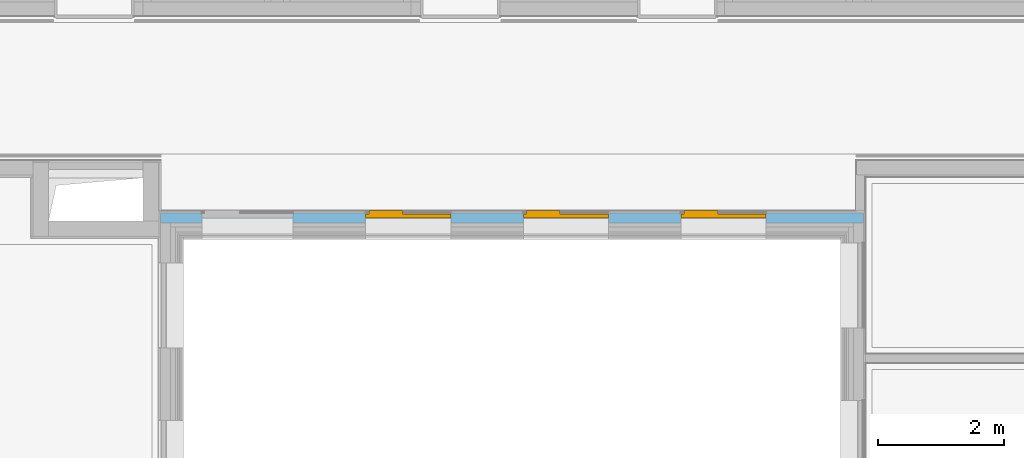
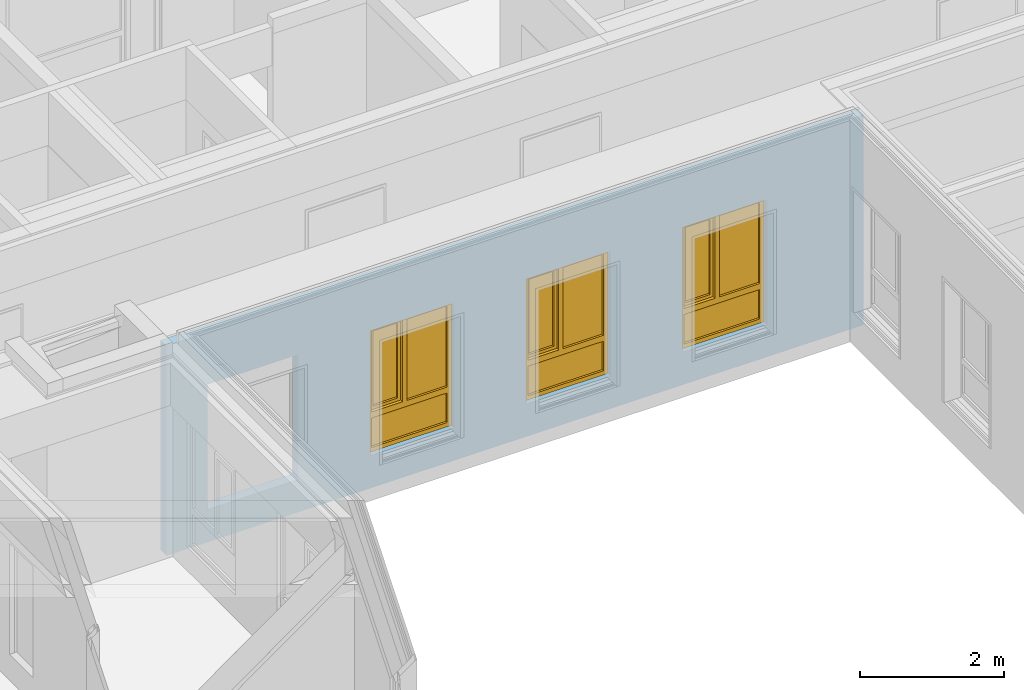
# One storey, part 129 of 222: 3 windows, 4 openings, plus 1 element that does not belong to this part.
"""IFC4 building model written with IfcOpenShell, lengths in metres."""

from ifc_helpers import new_model, entity, si_unit, converted_unit, derived_unit, frame, origin, origin_with_axes, place, context, subcontext, project, spatial, polyline, outline, extrude, closed_shell, open_shell, surface_model, source, transform, mapped, material, element, fill, save


model = new_model("IFC4")

# Units and contexts
model_context = context("Model", 3, precision=1e-05, world=origin())
body_context = subcontext(model_context, "Body", "Model", "MODEL_VIEW")
ifc_project = project(units=[si_unit("LENGTHUNIT", "METRE"), si_unit("AREAUNIT", "SQUARE_METRE"), si_unit("VOLUMEUNIT", "CUBIC_METRE"), si_unit("MASSUNIT", "GRAM", prefix="KILO"), converted_unit("PLANEANGLEUNIT", "DEGREE", entity("IfcPlaneAngleMeasure", 0.0174532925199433), si_unit("PLANEANGLEUNIT", "RADIAN"), dimensions=[0, 0, 0, 0, 0, 0, 0]), derived_unit("THERMALTRANSMITTANCEUNIT", [(si_unit("POWERUNIT", "WATT"), 1), (si_unit("THERMODYNAMICTEMPERATUREUNIT", "KELVIN"), -1), (si_unit("LENGTHUNIT", "METRE"), -2)]), derived_unit("VOLUMETRICFLOWRATEUNIT", [(si_unit("LENGTHUNIT", "METRE"), 3), (converted_unit("TIMEUNIT", "hour", entity("IfcTimeMeasure", 3600.0), si_unit("TIMEUNIT", "SECOND"), dimensions=[0, 0, 1, 0, 0, 0, 0]), -1), (si_unit("LENGTHUNIT", "METRE"), -1)])], contexts=[model_context])

# Site, building, storey
site_placement = place(None, origin())
site = spatial("IfcSite", under=ifc_project, at=site_placement, Name="Psychiatrie Neubau Wunstorf", CompositionType="ELEMENT")
building_placement = place(site_placement, origin())
building = spatial("IfcBuilding", under=site, at=building_placement, Name="Neubau H2 Stationsgebäude", CompositionType="ELEMENT")
storey_placement = place(building_placement, frame((0.0, 0.0, 3.6)))
storey = spatial("IfcBuildingStorey", under=building, at=storey_placement, Name="H2 Ebene +1", CompositionType="ELEMENT", Elevation=3.6)

# Wall, openings, windows
ifc_material = material(Name="WA-DL")
wall_placement = place(storey_placement, frame((90.325, 22.000006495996, 0.0), z_axis=(0.0, 0.0, 1.0), x_axis=(-0.999999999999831, -5.80725547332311e-07, 0.0)))
wall = element("IfcWall", 1, at=wall_placement, inside=storey, material=ifc_material, context=body_context, shape_type="SweptSolid", body=[
    extrude(outline(polyline([(-11.150000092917, -0.159998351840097), (-9.29151304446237e-08, -0.159998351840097), (0.0, 0.0), (-11.1499999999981, 6.47508983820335e-06), (-11.150000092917, -0.159998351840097)])), frame((11.150000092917, 0.159998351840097, 0.0), z_axis=(0.0, 0.0, 1.0), x_axis=(1.0, 0.0, 0.0)), (0.0, 0.0, 1.0), 3.55),
])
opening_1_placement = place(wall_placement, frame((7.89530009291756, 0.160000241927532, 0.55), z_axis=(-5.80725546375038e-07, -0.999999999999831, 0.0), x_axis=(0.0, 0.0, 1.0)))
opening_1 = element("IfcOpeningElement", 2, at=opening_1_placement, cuts=wall, Name="Fensteröffnung", ObjectType="Opening", context=body_context, shape_type="SweptSolid", body=[
    extrude(outline(polyline([(2.115, 1.35), (2.115, 0.0), (0.0, 0.0), (0.0, 1.35), (2.115, 1.35)])), origin_with_axes(), (0.0, 0.0, 1.0), 0.160000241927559),
])
opening_2_placement = place(wall_placement, frame((5.39530009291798, 0.160001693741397, 0.55), z_axis=(-5.80725546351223e-07, -0.999999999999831, 0.0), x_axis=(0.0, 0.0, 1.0)))
opening_2 = element("IfcOpeningElement", 3, at=opening_2_placement, cuts=wall, Name="Fensteröffnung", ObjectType="Opening", context=body_context, shape_type="SweptSolid", body=[
    extrude(outline(polyline([(2.115, 1.3500003), (2.115, 0.0), (0.0, 0.0), (0.0, 1.3500003), (2.115, 1.3500003)])), origin_with_axes(), (0.0, 0.0, 1.0), 0.160001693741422),
])
opening_3_placement = place(wall_placement, frame((2.89529979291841, 0.160003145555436, 0.55), z_axis=(-5.80725549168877e-07, -0.999999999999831, 0.0), x_axis=(0.0, 0.0, 1.0)))
opening_3 = element("IfcOpeningElement", 4, at=opening_3_placement, cuts=wall, Name="Fensteröffnung", ObjectType="Opening", context=body_context, shape_type="SweptSolid", body=[
    extrude(outline(polyline([(2.115, 1.3500003), (2.115, 0.0), (0.0, 0.0), (0.0, 1.3500003), (2.115, 1.3500003)])), origin_with_axes(), (0.0, 0.0, 1.0), 0.160003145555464),
])
opening_4_placement = place(wall_placement, frame((10.4953000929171, 0.159998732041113, 0.55), z_axis=(-5.80725541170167e-07, -0.999999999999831, 0.0), x_axis=(0.0, 0.0, 1.0)))
element("IfcOpeningElement", 5, at=opening_4_placement, cuts=wall, Name="Fensteröffnung", ObjectType="Opening", context=body_context, shape_type="SweptSolid", body=[
    extrude(outline(polyline([(2.115, 1.45), (2.115, 0.0), (0.0, 0.0), (0.0, 1.45), (2.115, 1.45)])), origin_with_axes(), (0.0, 0.0, 1.0), 0.159998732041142),
])
shared_shape_1 = source(origin_with_axes(), body_context, "Body", "SurfaceModel", [
    surface_model("IfcShellBasedSurfaceModel", [(1.35000023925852, -8.85086432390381e-07, 2.115), (1.35000023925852, -8.85086432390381e-07, 0.0), (1.28000023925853, -9.25737222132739e-07, 0.0), (1.28000023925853, -9.25737222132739e-07, 2.115), (1.35000019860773, 0.0699991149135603, 0.0), (1.35000019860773, 0.0699991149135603, 2.115), (1.28000019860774, 0.0699990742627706, 2.115), (1.28000019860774, 0.0699990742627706, 0.0)], [closed_shell([[[0, 1, 2, 3]], [[4, 5, 6, 7]], [[1, 0, 5, 4]], [[2, 1, 4, 7]], [[3, 2, 7, 6]], [[0, 3, 6, 5]]], orient=[[False], [False], [False], [False], [False], [False]])]),
    surface_model("IfcShellBasedSurfaceModel", [(0.0699999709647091, -1.62841528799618e-06, 2.115), (0.0699999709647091, -1.62841528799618e-06, 0.0), (-2.90352763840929e-08, -1.66906607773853e-06, 0.0), (-2.90352763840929e-08, -1.66906607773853e-06, 2.115), (0.0699999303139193, 0.0699983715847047, 0.0), (0.0699999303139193, 0.0699983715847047, 2.115), (-6.96860661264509e-08, 0.069998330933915, 2.115), (-6.96860661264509e-08, 0.069998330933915, 0.0)], [closed_shell([[[0, 1, 2, 3]], [[4, 5, 6, 7]], [[1, 0, 5, 4]], [[2, 1, 4, 7]], [[3, 2, 7, 6]], [[0, 3, 6, 5]]], orient=[[False], [False], [False], [False], [False], [False]])]),
    surface_model("IfcShellBasedSurfaceModel", [(1.28000023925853, -9.25737222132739e-07, 0.07), (1.28000023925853, -9.25737222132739e-07, 0.0), (0.0699999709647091, -1.62841528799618e-06, 0.0), (0.0699999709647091, -1.62841528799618e-06, 0.07), (1.28000019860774, 0.0699990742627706, 0.0), (1.28000019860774, 0.0699990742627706, 0.07), (0.0699999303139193, 0.0699983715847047, 0.07), (0.0699999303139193, 0.0699983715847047, 0.0)], [closed_shell([[[0, 1, 2, 3]], [[4, 5, 6, 7]], [[1, 0, 5, 4]], [[2, 1, 4, 7]], [[3, 2, 7, 6]], [[0, 3, 6, 5]]], orient=[[False], [False], [False], [False], [False], [False]])]),
    surface_model("IfcShellBasedSurfaceModel", [(1.28000023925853, -9.25737222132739e-07, 2.115), (1.28000023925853, -9.25737222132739e-07, 2.045), (0.0699999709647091, -1.62841528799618e-06, 2.045), (0.0699999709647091, -1.62841528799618e-06, 2.115), (1.28000019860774, 0.0699990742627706, 2.045), (1.28000019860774, 0.0699990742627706, 2.115), (0.0699999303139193, 0.0699983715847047, 2.115), (0.0699999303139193, 0.0699983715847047, 2.045)], [closed_shell([[[0, 1, 2, 3]], [[4, 5, 6, 7]], [[1, 0, 5, 4]], [[2, 1, 4, 7]], [[3, 2, 7, 6]], [[0, 3, 6, 5]]], orient=[[False], [False], [False], [False], [False], [False]])]),
    surface_model("IfcShellBasedSurfaceModel", [(1.28000023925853, -9.25737222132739e-07, 0.67), (1.28000023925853, -9.25737222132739e-07, 0.57), (0.0699999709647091, -1.62841528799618e-06, 0.57), (0.0699999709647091, -1.62841528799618e-06, 0.67), (1.28000019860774, 0.0699990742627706, 0.57), (1.28000019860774, 0.0699990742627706, 0.67), (0.0699999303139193, 0.0699983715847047, 0.67), (0.0699999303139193, 0.0699983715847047, 0.57)], [closed_shell([[[0, 1, 2, 3]], [[4, 5, 6, 7]], [[1, 0, 5, 4]], [[2, 1, 4, 7]], [[3, 2, 7, 6]], [[0, 3, 6, 5]]], orient=[[False], [False], [False], [False], [False], [False]])]),
    surface_model("IfcShellBasedSurfaceModel", [(1.28000021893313, 0.0349990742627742, 0.07), (0.0699999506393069, 0.0349983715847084, 0.07), (0.0699999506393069, 0.0349983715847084, 0.57), (1.28000021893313, 0.0349990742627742, 0.57)], [open_shell([[[0, 1, 2, 3]]], orient=[[False]])]),
    surface_model("IfcShellBasedSurfaceModel", [(0.784300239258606, -1.21360287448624e-06, 2.045), (0.784300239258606, -1.21360287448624e-06, 0.67), (0.71430023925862, -1.2542536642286e-06, 0.67), (0.71430023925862, -1.2542536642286e-06, 2.045), (0.784300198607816, 0.0699987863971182, 0.67), (0.784300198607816, 0.0699987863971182, 2.045), (0.714300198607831, 0.0699987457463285, 2.045), (0.714300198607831, 0.0699987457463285, 0.67)], [closed_shell([[[0, 1, 2, 3]], [[4, 5, 6, 7]], [[1, 0, 5, 4]], [[2, 1, 4, 7]], [[3, 2, 7, 6]], [[0, 3, 6, 5]]], orient=[[False], [False], [False], [False], [False], [False]])]),
    surface_model("IfcShellBasedSurfaceModel", [(1.3000002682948, -0.0500009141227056, 2.065), (1.3000002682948, -0.0500009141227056, 0.65), (1.23000026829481, -0.0500009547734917, 0.65), (1.23000026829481, -0.0500009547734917, 2.065), (1.30000022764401, 0.0199990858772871, 0.65), (1.30000022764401, 0.0199990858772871, 2.065), (1.23000022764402, 0.019999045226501, 2.065), (1.23000022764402, 0.019999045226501, 0.65)], [closed_shell([[[0, 1, 2, 3]], [[4, 5, 6, 7]], [[1, 0, 5, 4]], [[2, 1, 4, 7]], [[3, 2, 7, 6]], [[0, 3, 6, 5]]], orient=[[False], [False], [False], [False], [False], [False]])]),
    surface_model("IfcShellBasedSurfaceModel", [(0.834300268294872, -0.0500011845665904, 2.065), (0.834300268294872, -0.0500011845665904, 0.65), (0.764300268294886, -0.0500012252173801, 0.65), (0.764300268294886, -0.0500012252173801, 2.065), (0.834300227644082, 0.0199988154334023, 0.65), (0.834300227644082, 0.0199988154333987, 2.065), (0.764300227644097, 0.0199987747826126, 2.065), (0.764300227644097, 0.0199987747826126, 0.65)], [closed_shell([[[0, 1, 2, 3]], [[4, 5, 6, 7]], [[1, 0, 5, 4]], [[2, 1, 4, 7]], [[3, 2, 7, 6]], [[0, 3, 6, 5]]], orient=[[False], [False], [False], [False], [False], [False]])]),
    surface_model("IfcShellBasedSurfaceModel", [(1.23000026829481, -0.0500009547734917, 0.72), (1.23000026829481, -0.0500009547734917, 0.65), (0.834300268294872, -0.0500011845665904, 0.65), (0.834300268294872, -0.0500011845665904, 0.72), (1.23000022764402, 0.019999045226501, 0.65), (1.23000022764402, 0.019999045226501, 0.72), (0.834300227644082, 0.0199988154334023, 0.72), (0.834300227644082, 0.0199988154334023, 0.65)], [closed_shell([[[0, 1, 2, 3]], [[4, 5, 6, 7]], [[1, 0, 5, 4]], [[2, 1, 4, 7]], [[3, 2, 7, 6]], [[0, 3, 6, 5]]], orient=[[False], [False], [False], [False], [False], [False]])]),
    surface_model("IfcShellBasedSurfaceModel", [(1.23000026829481, -0.0500009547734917, 2.065), (1.23000026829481, -0.0500009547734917, 1.995), (0.834300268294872, -0.0500011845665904, 1.995), (0.834300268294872, -0.0500011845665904, 2.065), (1.23000022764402, 0.019999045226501, 1.995), (1.23000022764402, 0.019999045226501, 2.065), (0.834300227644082, 0.0199988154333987, 2.065), (0.834300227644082, 0.0199988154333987, 1.995)], [closed_shell([[[0, 1, 2, 3]], [[4, 5, 6, 7]], [[1, 0, 5, 4]], [[2, 1, 4, 7]], [[3, 2, 7, 6]], [[0, 3, 6, 5]]], orient=[[False], [False], [False], [False], [False], [False]])]),
    surface_model("IfcShellBasedSurfaceModel", [(0.714300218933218, 0.0349987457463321, 0.67), (0.0699999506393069, 0.0349983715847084, 0.67), (0.0699999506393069, 0.0349983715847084, 2.045), (0.714300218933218, 0.0349987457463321, 2.045)], [open_shell([[[0, 1, 2, 3]]], orient=[[False]])]),
    surface_model("IfcShellBasedSurfaceModel", [(1.23000024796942, -0.0150009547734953, 0.72), (0.834300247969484, -0.015001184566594, 0.72), (0.834300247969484, -0.015001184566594, 1.995), (1.23000024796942, -0.0150009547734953, 1.995)], [open_shell([[[0, 1, 2, 3]]], orient=[[False]])]),
])
window_1_placement = place(opening_1_placement, frame((0.0, 1.35, 0.145998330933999), z_axis=(1.0, 0.0, 0.0), x_axis=(0.0, -1.0, 9.5727280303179e-16)))
window_1 = element("IfcWindow", 6, at=window_1_placement, inside=storey, Name="Fenster", OverallHeight=2.115, OverallWidth=1.35, PartitioningType="USERDEFINED", PredefinedType="WINDOW", context=body_context, shape_type="MappedRepresentation", body=[
    mapped(shared_shape_1, transform((0.0, 0.0, 0.0), x_axis=(1.0, 0.0, 0.0), y_axis=(0.0, 1.0, 0.0), z_axis=(0.0, 0.0, 1.0), scale=1.0)),
])
fill(opening_1, window_1)
shared_shape_2 = source(origin_with_axes(), body_context, "Body", "SurfaceModel", [
    surface_model("IfcShellBasedSurfaceModel", [(1.35000053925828, -4.93096369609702e-07, 2.115), (1.35000053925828, -4.93096369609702e-07, 0.0), (1.2800005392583, -5.3374715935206e-07, 0.0), (1.2800005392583, -5.3374715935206e-07, 2.115), (1.35000049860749, 0.0699995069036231, 0.0), (1.35000049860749, 0.0699995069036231, 2.115), (1.28000049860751, 0.0699994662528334, 2.115), (1.28000049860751, 0.0699994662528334, 0.0)], [closed_shell([[[0, 1, 2, 3]], [[4, 5, 6, 7]], [[1, 0, 5, 4]], [[2, 1, 4, 7]], [[3, 2, 7, 6]], [[0, 3, 6, 5]]], orient=[[False], [False], [False], [False], [False], [False]])]),
    surface_model("IfcShellBasedSurfaceModel", [(0.0700002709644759, -1.23642522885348e-06, 2.115), (0.0700002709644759, -1.23642522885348e-06, 0.0), (2.70964490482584e-07, -1.27707601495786e-06, 0.0), (2.70964490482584e-07, -1.27707601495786e-06, 2.115), (0.0700002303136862, 0.0699987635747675, 0.0), (0.0700002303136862, 0.0699987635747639, 2.115), (2.30313700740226e-07, 0.0699987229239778, 2.115), (2.30313700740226e-07, 0.0699987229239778, 0.0)], [closed_shell([[[0, 1, 2, 3]], [[4, 5, 6, 7]], [[1, 0, 5, 4]], [[2, 1, 4, 7]], [[3, 2, 7, 6]], [[0, 3, 6, 5]]], orient=[[False], [False], [False], [False], [False], [False]])]),
    surface_model("IfcShellBasedSurfaceModel", [(1.2800005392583, -5.3374715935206e-07, 0.07), (1.2800005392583, -5.3374715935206e-07, 0.0), (0.0700002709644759, -1.23642522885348e-06, 0.0), (0.0700002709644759, -1.23642522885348e-06, 0.07), (1.28000049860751, 0.0699994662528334, 0.0), (1.28000049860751, 0.0699994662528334, 0.07), (0.0700002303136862, 0.0699987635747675, 0.07), (0.0700002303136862, 0.0699987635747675, 0.0)], [closed_shell([[[0, 1, 2, 3]], [[4, 5, 6, 7]], [[1, 0, 5, 4]], [[2, 1, 4, 7]], [[3, 2, 7, 6]], [[0, 3, 6, 5]]], orient=[[False], [False], [False], [False], [False], [False]])]),
    surface_model("IfcShellBasedSurfaceModel", [(1.2800005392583, -5.3374715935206e-07, 2.115), (1.2800005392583, -5.3374715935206e-07, 2.045), (0.0700002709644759, -1.23642522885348e-06, 2.045), (0.0700002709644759, -1.23642522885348e-06, 2.115), (1.28000049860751, 0.0699994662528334, 2.045), (1.28000049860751, 0.0699994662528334, 2.115), (0.0700002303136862, 0.0699987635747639, 2.115), (0.0700002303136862, 0.0699987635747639, 2.045)], [closed_shell([[[0, 1, 2, 3]], [[4, 5, 6, 7]], [[1, 0, 5, 4]], [[2, 1, 4, 7]], [[3, 2, 7, 6]], [[0, 3, 6, 5]]], orient=[[False], [False], [False], [False], [False], [False]])]),
    surface_model("IfcShellBasedSurfaceModel", [(1.2800005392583, -5.3374715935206e-07, 0.67), (1.2800005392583, -5.3374715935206e-07, 0.57), (0.0700002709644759, -1.23642522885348e-06, 0.57), (0.0700002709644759, -1.23642522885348e-06, 0.67), (1.28000049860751, 0.0699994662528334, 0.57), (1.28000049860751, 0.0699994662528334, 0.67), (0.0700002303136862, 0.0699987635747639, 0.67), (0.0700002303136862, 0.0699987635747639, 0.57)], [closed_shell([[[0, 1, 2, 3]], [[4, 5, 6, 7]], [[1, 0, 5, 4]], [[2, 1, 4, 7]], [[3, 2, 7, 6]], [[0, 3, 6, 5]]], orient=[[False], [False], [False], [False], [False], [False]])]),
    surface_model("IfcShellBasedSurfaceModel", [(1.28000051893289, 0.034999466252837, 0.07), (0.0700002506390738, 0.0349987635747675, 0.07), (0.0700002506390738, 0.0349987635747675, 0.57), (1.28000051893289, 0.034999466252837, 0.57)], [open_shell([[[0, 1, 2, 3]]], orient=[[False]])]),
    surface_model("IfcShellBasedSurfaceModel", [(0.784300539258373, -8.21612811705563e-07, 2.045), (0.784300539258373, -8.21612811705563e-07, 0.67), (0.714300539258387, -8.62263601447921e-07, 0.67), (0.714300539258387, -8.62263601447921e-07, 2.045), (0.784300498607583, 0.069999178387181, 0.67), (0.784300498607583, 0.069999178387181, 2.045), (0.714300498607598, 0.0699991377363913, 2.045), (0.714300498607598, 0.0699991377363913, 0.67)], [closed_shell([[[0, 1, 2, 3]], [[4, 5, 6, 7]], [[1, 0, 5, 4]], [[2, 1, 4, 7]], [[3, 2, 7, 6]], [[0, 3, 6, 5]]], orient=[[False], [False], [False], [False], [False], [False]])]),
    surface_model("IfcShellBasedSurfaceModel", [(1.30000056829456, -0.0500005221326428, 2.065), (1.30000056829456, -0.0500005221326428, 0.65), (1.23000056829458, -0.0500005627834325, 0.65), (1.23000056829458, -0.0500005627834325, 2.065), (1.30000052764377, 0.0199994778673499, 0.65), (1.30000052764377, 0.0199994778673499, 2.065), (1.23000052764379, 0.0199994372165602, 2.065), (1.23000052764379, 0.0199994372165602, 0.65)], [closed_shell([[[0, 1, 2, 3]], [[4, 5, 6, 7]], [[1, 0, 5, 4]], [[2, 1, 4, 7]], [[3, 2, 7, 6]], [[0, 3, 6, 5]]], orient=[[False], [False], [False], [False], [False], [False]])]),
    surface_model("IfcShellBasedSurfaceModel", [(0.834300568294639, -0.0500007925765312, 2.065), (0.834300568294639, -0.0500007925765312, 0.65), (0.764300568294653, -0.050000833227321, 0.65), (0.764300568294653, -0.050000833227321, 2.065), (0.834300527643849, 0.0199992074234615, 0.65), (0.834300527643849, 0.0199992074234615, 2.065), (0.764300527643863, 0.0199991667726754, 2.065), (0.764300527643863, 0.0199991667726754, 0.65)], [closed_shell([[[0, 1, 2, 3]], [[4, 5, 6, 7]], [[1, 0, 5, 4]], [[2, 1, 4, 7]], [[3, 2, 7, 6]], [[0, 3, 6, 5]]], orient=[[False], [False], [False], [False], [False], [False]])]),
    surface_model("IfcShellBasedSurfaceModel", [(1.23000056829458, -0.0500005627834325, 0.72), (1.23000056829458, -0.0500005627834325, 0.65), (0.834300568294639, -0.0500007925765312, 0.65), (0.834300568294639, -0.0500007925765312, 0.72), (1.23000052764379, 0.0199994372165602, 0.65), (1.23000052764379, 0.0199994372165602, 0.72), (0.834300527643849, 0.0199992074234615, 0.72), (0.834300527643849, 0.0199992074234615, 0.65)], [closed_shell([[[0, 1, 2, 3]], [[4, 5, 6, 7]], [[1, 0, 5, 4]], [[2, 1, 4, 7]], [[3, 2, 7, 6]], [[0, 3, 6, 5]]], orient=[[False], [False], [False], [False], [False], [False]])]),
    surface_model("IfcShellBasedSurfaceModel", [(1.23000056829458, -0.0500005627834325, 2.065), (1.23000056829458, -0.0500005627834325, 1.995), (0.834300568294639, -0.0500007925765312, 1.995), (0.834300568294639, -0.0500007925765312, 2.065), (1.23000052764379, 0.0199994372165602, 1.995), (1.23000052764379, 0.0199994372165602, 2.065), (0.834300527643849, 0.0199992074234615, 2.065), (0.834300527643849, 0.0199992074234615, 1.995)], [closed_shell([[[0, 1, 2, 3]], [[4, 5, 6, 7]], [[1, 0, 5, 4]], [[2, 1, 4, 7]], [[3, 2, 7, 6]], [[0, 3, 6, 5]]], orient=[[False], [False], [False], [False], [False], [False]])]),
    surface_model("IfcShellBasedSurfaceModel", [(0.714300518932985, 0.0349991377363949, 0.67), (0.0700002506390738, 0.0349987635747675, 0.67), (0.0700002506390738, 0.0349987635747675, 2.045), (0.714300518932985, 0.0349991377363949, 2.045)], [open_shell([[[0, 1, 2, 3]]], orient=[[False]])]),
    surface_model("IfcShellBasedSurfaceModel", [(1.23000054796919, -0.0150005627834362, 0.72), (0.834300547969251, -0.0150007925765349, 0.72), (0.834300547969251, -0.0150007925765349, 1.995), (1.23000054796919, -0.0150005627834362, 1.995)], [open_shell([[[0, 1, 2, 3]]], orient=[[False]])]),
])
window_2_placement = place(opening_2_placement, frame((0.0, 1.3500003, 0.145998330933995), z_axis=(1.0, 0.0, 0.0), x_axis=(0.0, -1.0, 9.81087663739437e-16)))
window_2 = element("IfcWindow", 7, at=window_2_placement, inside=storey, Name="Fenster", OverallHeight=2.115, OverallWidth=1.35, PartitioningType="USERDEFINED", PredefinedType="WINDOW", context=body_context, shape_type="MappedRepresentation", body=[
    mapped(shared_shape_2, transform((0.0, 0.0, 0.0), x_axis=(1.0, 0.0, 0.0), y_axis=(0.0, 1.0, 0.0), z_axis=(0.0, 0.0, 1.0), scale=1.0)),
])
fill(opening_2, window_2)
shared_shape_3 = source(origin_with_axes(), body_context, "Body", "SurfaceModel", [
    surface_model("IfcShellBasedSurfaceModel", [(1.35000053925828, -4.93096369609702e-07, 2.115), (1.35000053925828, -4.93096369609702e-07, 0.0), (1.2800005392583, -5.3374715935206e-07, 0.0), (1.2800005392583, -5.3374715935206e-07, 2.115), (1.35000049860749, 0.0699995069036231, 0.0), (1.35000049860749, 0.0699995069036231, 2.115), (1.28000049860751, 0.0699994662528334, 2.115), (1.28000049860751, 0.0699994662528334, 0.0)], [closed_shell([[[0, 1, 2, 3]], [[4, 5, 6, 7]], [[1, 0, 5, 4]], [[2, 1, 4, 7]], [[3, 2, 7, 6]], [[0, 3, 6, 5]]], orient=[[False], [False], [False], [False], [False], [False]])]),
    surface_model("IfcShellBasedSurfaceModel", [(0.0700002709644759, -1.23642522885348e-06, 2.115), (0.0700002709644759, -1.23642522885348e-06, 0.0), (2.70964490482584e-07, -1.27707601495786e-06, 0.0), (2.70964490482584e-07, -1.27707601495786e-06, 2.115), (0.0700002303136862, 0.0699987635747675, 0.0), (0.0700002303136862, 0.0699987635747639, 2.115), (2.30313700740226e-07, 0.0699987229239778, 2.115), (2.30313700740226e-07, 0.0699987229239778, 0.0)], [closed_shell([[[0, 1, 2, 3]], [[4, 5, 6, 7]], [[1, 0, 5, 4]], [[2, 1, 4, 7]], [[3, 2, 7, 6]], [[0, 3, 6, 5]]], orient=[[False], [False], [False], [False], [False], [False]])]),
    surface_model("IfcShellBasedSurfaceModel", [(1.2800005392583, -5.3374715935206e-07, 0.07), (1.2800005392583, -5.3374715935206e-07, 0.0), (0.0700002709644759, -1.23642522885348e-06, 0.0), (0.0700002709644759, -1.23642522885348e-06, 0.07), (1.28000049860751, 0.0699994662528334, 0.0), (1.28000049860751, 0.0699994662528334, 0.07), (0.0700002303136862, 0.0699987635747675, 0.07), (0.0700002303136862, 0.0699987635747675, 0.0)], [closed_shell([[[0, 1, 2, 3]], [[4, 5, 6, 7]], [[1, 0, 5, 4]], [[2, 1, 4, 7]], [[3, 2, 7, 6]], [[0, 3, 6, 5]]], orient=[[False], [False], [False], [False], [False], [False]])]),
    surface_model("IfcShellBasedSurfaceModel", [(1.2800005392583, -5.3374715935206e-07, 2.115), (1.2800005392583, -5.3374715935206e-07, 2.045), (0.0700002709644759, -1.23642522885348e-06, 2.045), (0.0700002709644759, -1.23642522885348e-06, 2.115), (1.28000049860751, 0.0699994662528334, 2.045), (1.28000049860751, 0.0699994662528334, 2.115), (0.0700002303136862, 0.0699987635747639, 2.115), (0.0700002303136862, 0.0699987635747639, 2.045)], [closed_shell([[[0, 1, 2, 3]], [[4, 5, 6, 7]], [[1, 0, 5, 4]], [[2, 1, 4, 7]], [[3, 2, 7, 6]], [[0, 3, 6, 5]]], orient=[[False], [False], [False], [False], [False], [False]])]),
    surface_model("IfcShellBasedSurfaceModel", [(1.2800005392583, -5.3374715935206e-07, 0.67), (1.2800005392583, -5.3374715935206e-07, 0.57), (0.0700002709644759, -1.23642522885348e-06, 0.57), (0.0700002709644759, -1.23642522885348e-06, 0.67), (1.28000049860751, 0.0699994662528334, 0.57), (1.28000049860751, 0.0699994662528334, 0.67), (0.0700002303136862, 0.0699987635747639, 0.67), (0.0700002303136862, 0.0699987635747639, 0.57)], [closed_shell([[[0, 1, 2, 3]], [[4, 5, 6, 7]], [[1, 0, 5, 4]], [[2, 1, 4, 7]], [[3, 2, 7, 6]], [[0, 3, 6, 5]]], orient=[[False], [False], [False], [False], [False], [False]])]),
    surface_model("IfcShellBasedSurfaceModel", [(1.28000051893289, 0.034999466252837, 0.07), (0.0700002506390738, 0.0349987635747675, 0.07), (0.0700002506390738, 0.0349987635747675, 0.57), (1.28000051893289, 0.034999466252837, 0.57)], [open_shell([[[0, 1, 2, 3]]], orient=[[False]])]),
    surface_model("IfcShellBasedSurfaceModel", [(0.784300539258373, -8.21612811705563e-07, 2.045), (0.784300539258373, -8.21612811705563e-07, 0.67), (0.714300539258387, -8.62263601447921e-07, 0.67), (0.714300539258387, -8.62263601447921e-07, 2.045), (0.784300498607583, 0.069999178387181, 0.67), (0.784300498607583, 0.069999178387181, 2.045), (0.714300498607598, 0.0699991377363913, 2.045), (0.714300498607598, 0.0699991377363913, 0.67)], [closed_shell([[[0, 1, 2, 3]], [[4, 5, 6, 7]], [[1, 0, 5, 4]], [[2, 1, 4, 7]], [[3, 2, 7, 6]], [[0, 3, 6, 5]]], orient=[[False], [False], [False], [False], [False], [False]])]),
    surface_model("IfcShellBasedSurfaceModel", [(1.30000056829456, -0.0500005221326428, 2.065), (1.30000056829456, -0.0500005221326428, 0.65), (1.23000056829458, -0.0500005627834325, 0.65), (1.23000056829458, -0.0500005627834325, 2.065), (1.30000052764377, 0.0199994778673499, 0.65), (1.30000052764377, 0.0199994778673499, 2.065), (1.23000052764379, 0.0199994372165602, 2.065), (1.23000052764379, 0.0199994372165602, 0.65)], [closed_shell([[[0, 1, 2, 3]], [[4, 5, 6, 7]], [[1, 0, 5, 4]], [[2, 1, 4, 7]], [[3, 2, 7, 6]], [[0, 3, 6, 5]]], orient=[[False], [False], [False], [False], [False], [False]])]),
    surface_model("IfcShellBasedSurfaceModel", [(0.834300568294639, -0.0500007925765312, 2.065), (0.834300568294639, -0.0500007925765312, 0.65), (0.764300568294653, -0.050000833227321, 0.65), (0.764300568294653, -0.050000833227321, 2.065), (0.834300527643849, 0.0199992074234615, 0.65), (0.834300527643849, 0.0199992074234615, 2.065), (0.764300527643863, 0.0199991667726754, 2.065), (0.764300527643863, 0.0199991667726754, 0.65)], [closed_shell([[[0, 1, 2, 3]], [[4, 5, 6, 7]], [[1, 0, 5, 4]], [[2, 1, 4, 7]], [[3, 2, 7, 6]], [[0, 3, 6, 5]]], orient=[[False], [False], [False], [False], [False], [False]])]),
    surface_model("IfcShellBasedSurfaceModel", [(1.23000056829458, -0.0500005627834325, 0.72), (1.23000056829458, -0.0500005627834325, 0.65), (0.834300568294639, -0.0500007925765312, 0.65), (0.834300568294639, -0.0500007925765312, 0.72), (1.23000052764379, 0.0199994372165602, 0.65), (1.23000052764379, 0.0199994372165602, 0.72), (0.834300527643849, 0.0199992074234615, 0.72), (0.834300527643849, 0.0199992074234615, 0.65)], [closed_shell([[[0, 1, 2, 3]], [[4, 5, 6, 7]], [[1, 0, 5, 4]], [[2, 1, 4, 7]], [[3, 2, 7, 6]], [[0, 3, 6, 5]]], orient=[[False], [False], [False], [False], [False], [False]])]),
    surface_model("IfcShellBasedSurfaceModel", [(1.23000056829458, -0.0500005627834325, 2.065), (1.23000056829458, -0.0500005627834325, 1.995), (0.834300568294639, -0.0500007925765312, 1.995), (0.834300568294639, -0.0500007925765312, 2.065), (1.23000052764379, 0.0199994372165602, 1.995), (1.23000052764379, 0.0199994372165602, 2.065), (0.834300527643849, 0.0199992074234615, 2.065), (0.834300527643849, 0.0199992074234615, 1.995)], [closed_shell([[[0, 1, 2, 3]], [[4, 5, 6, 7]], [[1, 0, 5, 4]], [[2, 1, 4, 7]], [[3, 2, 7, 6]], [[0, 3, 6, 5]]], orient=[[False], [False], [False], [False], [False], [False]])]),
    surface_model("IfcShellBasedSurfaceModel", [(0.714300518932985, 0.0349991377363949, 0.67), (0.0700002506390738, 0.0349987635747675, 0.67), (0.0700002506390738, 0.0349987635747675, 2.045), (0.714300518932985, 0.0349991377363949, 2.045)], [open_shell([[[0, 1, 2, 3]]], orient=[[False]])]),
    surface_model("IfcShellBasedSurfaceModel", [(1.23000054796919, -0.0150005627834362, 0.72), (0.834300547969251, -0.0150007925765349, 0.72), (0.834300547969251, -0.0150007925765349, 1.995), (1.23000054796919, -0.0150005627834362, 1.995)], [open_shell([[[0, 1, 2, 3]]], orient=[[False]])]),
])
window_3_placement = place(opening_3_placement, frame((0.0, 1.3500003, 0.145998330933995), z_axis=(1.0, 0.0, 0.0), x_axis=(0.0, -1.0, -1.83656595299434e-15)))
window_3 = element("IfcWindow", 8, at=window_3_placement, inside=storey, Name="Fenster", OverallHeight=2.115, OverallWidth=1.35, PartitioningType="USERDEFINED", PredefinedType="WINDOW", context=body_context, shape_type="MappedRepresentation", body=[
    mapped(shared_shape_3, transform((0.0, 0.0, 0.0), x_axis=(1.0, 0.0, 0.0), y_axis=(0.0, 1.0, 0.0), z_axis=(0.0, 0.0, 1.0), scale=1.0)),
])
fill(opening_3, window_3)

save(model, "model.ifc")
